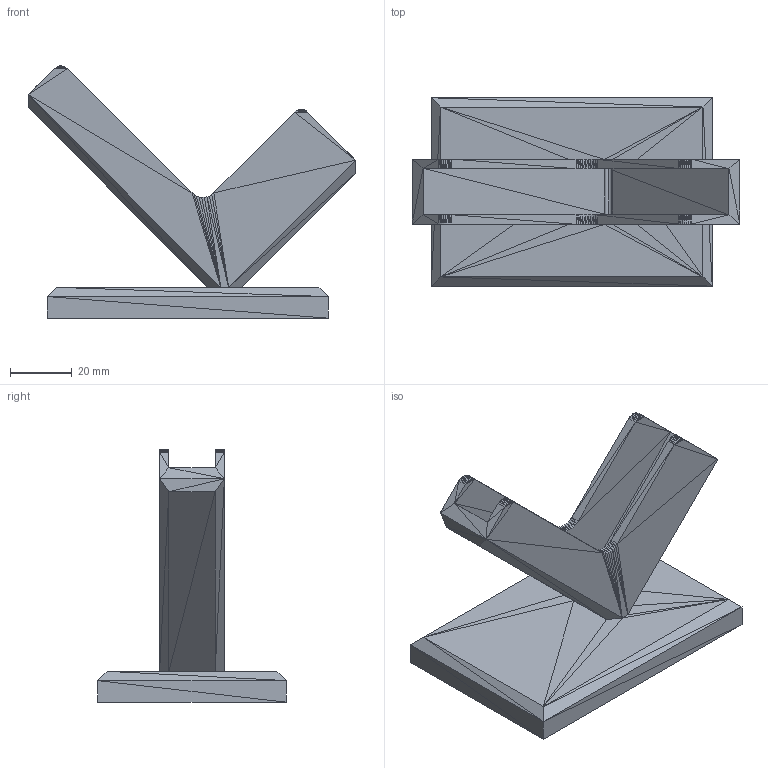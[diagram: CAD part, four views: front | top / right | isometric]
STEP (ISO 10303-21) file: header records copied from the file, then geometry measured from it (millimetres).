
FILE_DESCRIPTION (( 'STEP AP214' ), '1' );
FILE_NAME ('Business Card Holder.STEP', '2023-08-10T06:21:00', ( '' ), ( '' ), 'SwSTEP 2.0', 'SolidWorks 2022', '' );
FILE_SCHEMA (( 'AUTOMOTIVE_DESIGN' ));
Length unit declared in the file: millimetre
Products named in the file (1): Business Card Holder
Bounding box: 106.07 x 61 x 81.73 mm (x, y, z)
Volume: 87440.2 mm3; surface area: 28361.1 mm2
Topology: 1 solids, 1 shells, 258 faces, 406 edges, 150 vertices
Faces by surface type: plane 256, cylinder 2
Entity records: 5252 total; most frequent: DIRECTION 928, CARTESIAN_POINT 815, ORIENTED_EDGE 812, EDGE_CURVE 406, VECTOR 402, LINE 402, AXIS2_PLACEMENT_3D 263, FACE_OUTER_BOUND 258
